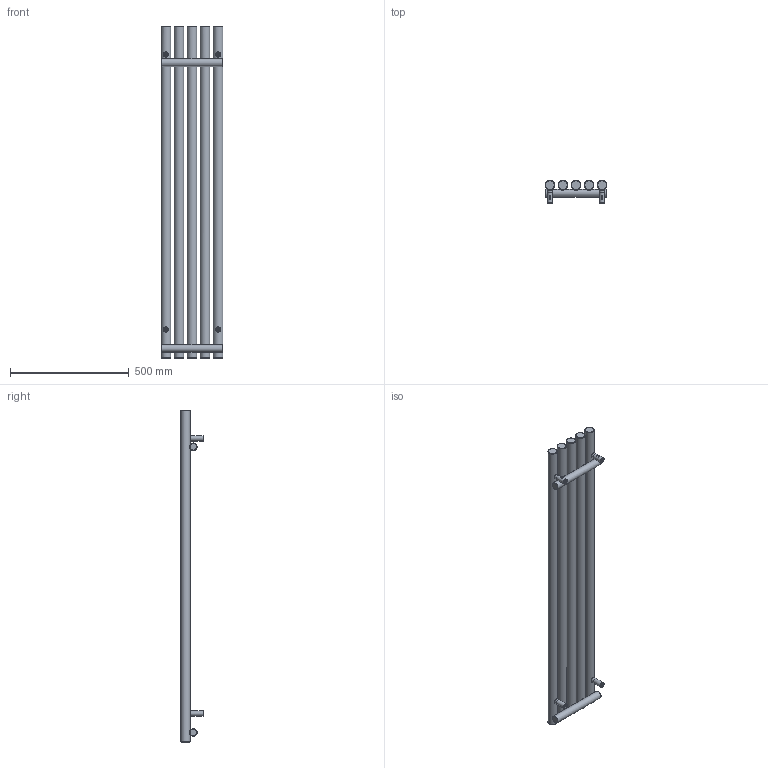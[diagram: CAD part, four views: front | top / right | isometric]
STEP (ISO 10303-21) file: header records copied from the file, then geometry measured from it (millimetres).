
FILE_DESCRIPTION(/* description */ (''),/* implementation_level */ '2;1');
FILE_NAME(/* name */ 'Z:\R\G\P\RGP116 - Grzejniki Geyser\Work\Inventor\Circolo (Rolo V, Rolo H)\ROLO-ROOM\Marketing\Bryły 3D\Zaokrąglone\WLROR140026-ES-CK-(Z).stp',/* time_stamp */ '2024-04-03T08:57:45+02:00',/* author */ ('NowAd'),/* organization */ (''),/* preprocessor_version */ 'ST-DEVELOPER v17.2',/* originating_system */ 'Autodesk Inventor 2019',/* authorisation */ '');
FILE_SCHEMA (('AUTOMOTIVE_DESIGN { 1 0 10303 214 3 1 1 }'));
Length unit declared in the file: millimetre
Products named in the file (3): WLROR140026-ES-CK-(Z); PGROR140026-ES-CK-(K); CK-V-fi40 marketing
Assembly tree (5 placements, depth 2):
  WLROR140026-ES-CK-(Z)
    PGROR140026-ES-CK-(K)
    CK-V-fi40 marketing  x4
Bounding box: 260 x 96.5 x 1400 mm (x, y, z)
Volume: 9256101 mm3; surface area: 973444.3 mm2
Topology: 5 solids, 5 shells, 317 faces, 799 edges, 534 vertices
Faces by surface type: plane 132, cylinder 73, cone 60, torus 42, bspline 10
Full cylindrical faces by diameter (mm): 4.134 x4, 4.48 x4, 6.4 x4, 10 x4, 12 x4, 15.834 x4, 16 x4, 18.631 x2, 22 x4, 32 x2, 40 x5
Entity records: 6295 total; most frequent: CARTESIAN_POINT 3059, DIRECTION 676, ORIENTED_EDGE 636, EDGE_CURVE 318, AXIS2_PLACEMENT_3D 301, VERTEX_POINT 216, EDGE_LOOP 172, CIRCLE 161
